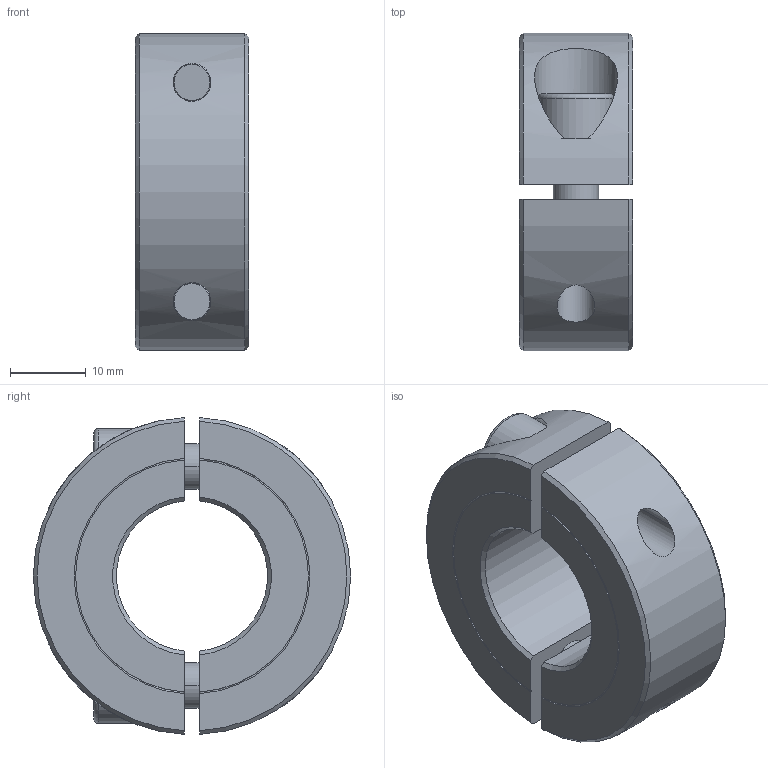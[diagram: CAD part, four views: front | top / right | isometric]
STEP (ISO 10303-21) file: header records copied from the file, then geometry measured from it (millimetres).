
FILE_DESCRIPTION((''),'2;1');
FILE_NAME('131-600-0020_ASM','2013-12-20T',('Brieden'),('brieden'),'PRO/ENGINEER BY PARAMETRIC TECHNOLOGY CORPORATION, 2005030','PRO/ENGINEER BY PARAMETRIC TECHNOLOGY CORPORATION, 2005030','');
FILE_SCHEMA(('AUTOMOTIVE_DESIGN_CC2 { 1 2 10303 214 -1 1 5 2 }'));
Length unit declared in the file: millimetre
Products named in the file (4): 131-600-0020-DB_PRT; 131-600-0020-TH_PRT; D912-M6X16_PRT; 131-600-0020_ASM
Assembly tree (4 placements, depth 2):
  131-600-0020_ASM
    131-600-0020-DB_PRT
    131-600-0020-TH_PRT
    D912-M6X16_PRT  x2
Bounding box: 15 x 42 x 41.95 mm (x, y, z)
Volume: 14661 mm3; surface area: 7621.6 mm2
Topology: 4 solids, 4 shells, 94 faces, 214 edges, 136 vertices
Faces by surface type: plane 34, cylinder 26, cone 20, torus 14
Entity records: 2312 total; most frequent: CARTESIAN_POINT 611, DIRECTION 348, ORIENTED_EDGE 312, EDGE_CURVE 156, AXIS2_PLACEMENT_3D 143, VERTEX_POINT 100, EDGE_LOOP 80, CIRCLE 68
